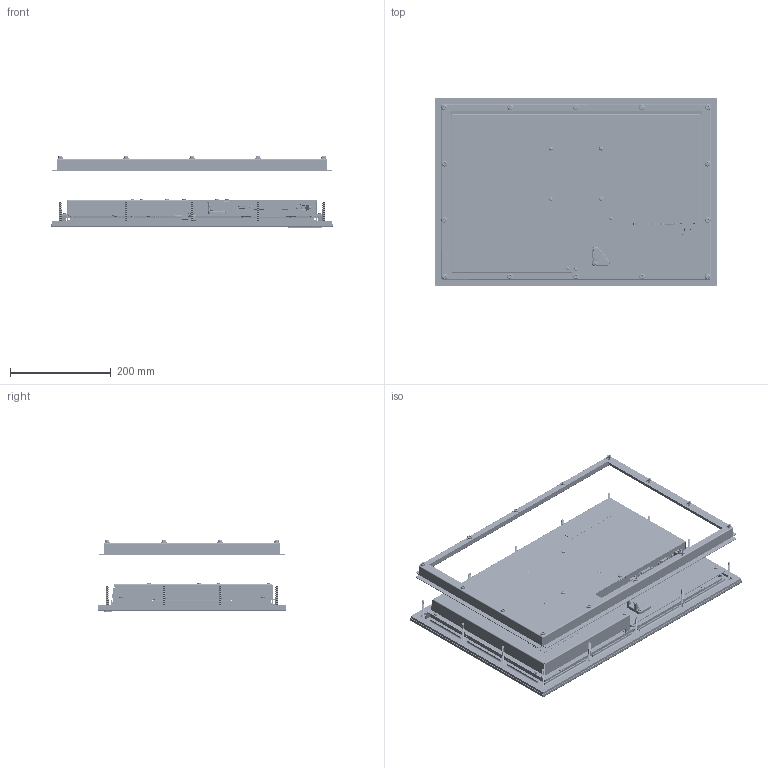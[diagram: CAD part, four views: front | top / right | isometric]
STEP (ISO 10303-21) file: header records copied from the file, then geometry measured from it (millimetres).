
FILE_DESCRIPTION (( 'STEP AP214' ), '1' );
FILE_NAME ('22 inch Panel Mount Monitor, HIS-ML22-xxxD.STEP', '2025-06-18T12:57:31', ( '' ), ( '' ), 'SwSTEP 2.0', 'SolidWorks 2023', '' );
FILE_SCHEMA (( 'AUTOMOTIVE_DESIGN' ));
Length unit declared in the file: millimetre
Products named in the file (4): Monitor, 22D; Collar, 10767; M5 Nut, 30008_M5 Nut - 30008; 22 inch Panel Mount Monitor, HIS-ML22-xxxD
Assembly tree (16 placements, depth 2):
  22 inch Panel Mount Monitor, HIS-ML22-xxxD
    Monitor, 22D
    Collar, 10767
    M5 Nut, 30008_M5 Nut - 30008  x14
Bounding box: 558.8 x 374.65 x 141.04 mm (x, y, z)
Volume: 124002.8 mm3; surface area: 3501312.9 mm2
Topology: 15 solids, 372 shells, 34219 faces, 93414 edges, 60182 vertices
Faces by surface type: plane 16091, cylinder 9246, cone 6974, bspline 1480, torus 280, sphere 148
Entity records: 1169306 total; most frequent: CARTESIAN_POINT 310888, ORIENTED_EDGE 183136, DIRECTION 176631, EDGE_CURVE 92198, VERTEX_POINT 59668, LINE 59575, VECTOR 59575, AXIS2_PLACEMENT_3D 58528
